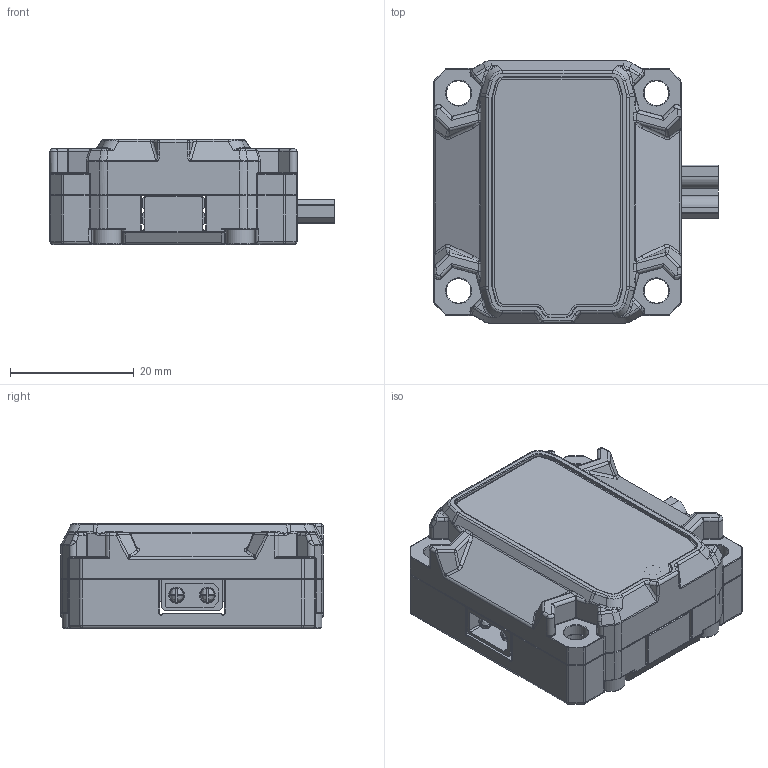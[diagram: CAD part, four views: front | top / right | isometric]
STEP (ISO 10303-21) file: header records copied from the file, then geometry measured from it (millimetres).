
FILE_DESCRIPTION(/* description */ (''),/* implementation_level */ '2;1');
FILE_NAME(/* name */ '3119-2829-0206.step',/* time_stamp */ '2025-12-05T10:37:03-06:00',/* author */ (''),/* organization */ (''),/* preprocessor_version */ 'ST-DEVELOPER v20.1',/* originating_system */ 'Autodesk Translation Framework v14.21.0.0',/* authorisation */ '');
FILE_SCHEMA (('AUTOMOTIVE_DESIGN { 1 0 10303 214 3 1 1 }'));
Products named in the file (16): 3119-2829-0206 (3.3V); 3117-0032-0016 (NEW); 3119-2829-0206-PCB; Board; Packages; LED_; 2X04*90; Configuration 3 v2; XT-30PWF; XT30PW-F v5; XT-30PWM; XT30PW-M v4; 3119-2829-0206-Top-Case; 3119-2829-0206-Product-Sticker; 3123-0003-0001 (Closed); 2815-0026-0012
Assembly tree (18 placements, depth 5):
  3119-2829-0206 (3.3V)
    3117-0032-0016 (NEW)
    3119-2829-0206-PCB
      Board
      Packages
        LED_
        2X04*90
          Configuration 3 v2
        XT-30PWF
          XT30PW-F v5
        XT-30PWM
          XT30PW-M v4
    3119-2829-0206-Top-Case
    3119-2829-0206-Product-Sticker
    2815-0026-0012  x4
    3123-0003-0001 (Closed)
Bounding box: 46 x 42.5 x 17 mm (x, y, z)
Volume: 11336.1 mm3; surface area: 19099.7 mm2
Topology: 33 solids, 33 shells, 4151 faces, 10331 edges, 6308 vertices
Faces by surface type: cylinder 1268, plane 1266, bspline 887, torus 606, sphere 70, cone 54
Full cylindrical faces by diameter (mm): 0.9 x16, 1 x4, 1.5 x4, 1.517 x28, 1.7 x4, 1.8 x4, 2 x6, 2.5 x9, 2.6 x24, 4 x8, 4.5 x4
Entity records: 141104 total; most frequent: CARTESIAN_POINT 48135, ORIENTED_EDGE 19846, DIRECTION 18470, EDGE_CURVE 9923, AXIS2_PLACEMENT_3D 6856, VERTEX_POINT 6073, LINE 4758, VECTOR 4758
